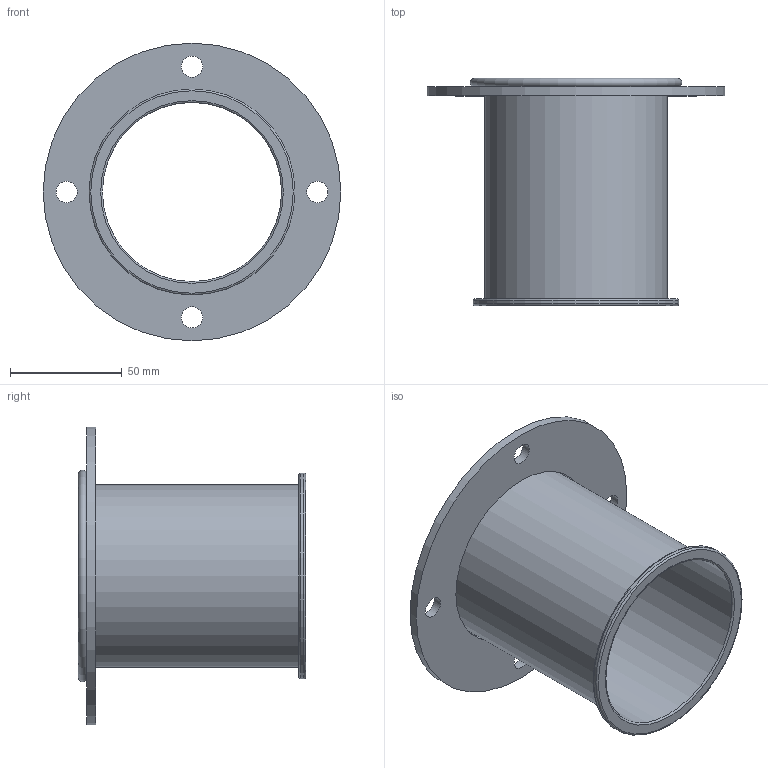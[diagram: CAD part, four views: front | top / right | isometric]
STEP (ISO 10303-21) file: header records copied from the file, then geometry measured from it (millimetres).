
FILE_DESCRIPTION(/* description */ (''),/* implementation_level */ '2;1');
FILE_NAME(/* name */ 'EA118-41B.stp',/* time_stamp */ '2021-02-23T13:41:51+01:00',/* author */ (''),/* organization */ (''),/* preprocessor_version */ 'ST-DEVELOPER v11',/* originating_system */ 'SIEMENS UGS NX 6.0',/* authorisation */ '');
FILE_SCHEMA (('CONFIG_CONTROL_DESIGN'));
Length unit declared in the file: millimetre
Products named in the file (1): gars4FD7yzfs
Bounding box: 133 x 101.5 x 133 mm (x, y, z)
Volume: 63892.5 mm3; surface area: 84430.3 mm2
Topology: 3 solids, 3 shells, 28 faces, 57 edges, 39 vertices
Faces by surface type: cylinder 13, plane 10, torus 5
Full cylindrical faces by diameter (mm): 9.5 x4, 80 x2, 81.6 x2, 83 x1, 91.6 x2, 92 x1, 133 x1
Entity records: 714 total; most frequent: DIRECTION 122, CARTESIAN_POINT 93, FACE_BOUND 64, EDGE_LOOP 64, ORIENTED_EDGE 64, AXIS2_PLACEMENT_3D 61, VERTEX_POINT 32, EDGE_CURVE 32
